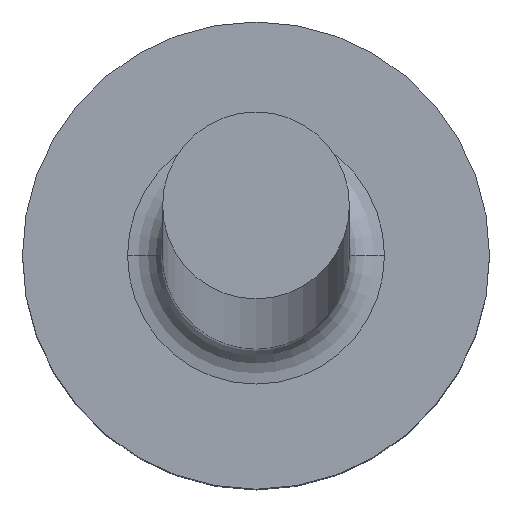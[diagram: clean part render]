
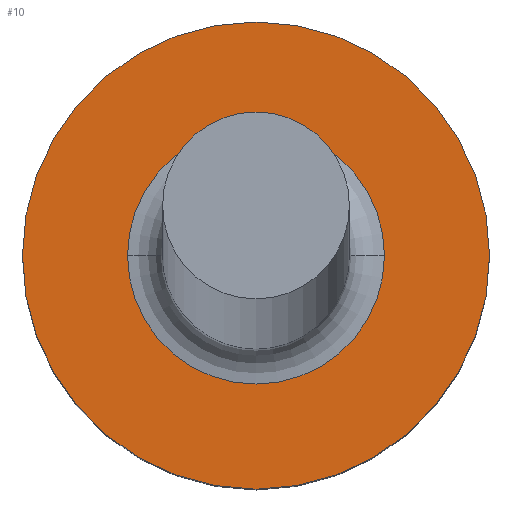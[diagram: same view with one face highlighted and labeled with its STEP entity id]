
A CAD part, top view. The second image highlights one B-rep face of the part: STEP entity #10.
In plain terms, the highlighted planar face has unit normal (0, 0, 1).
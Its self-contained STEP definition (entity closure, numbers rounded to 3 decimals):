
#1 = EDGE_CURVE ( 'NONE', #259, #54, #127, .T. ) ;
#10 = ADVANCED_FACE ( 'NONE', ( #230, #182 ), #187, .F. ) ;
#12 = ORIENTED_EDGE ( 'NONE', *, *, #1, .T. ) ;
#13 = CARTESIAN_POINT ( 'NONE',  ( 0., 0., 4. ) ) ;
#14 = DIRECTION ( 'NONE',  ( 0., 0., -1. ) ) ;
#18 = ORIENTED_EDGE ( 'NONE', *, *, #215, .T. ) ;
#24 = AXIS2_PLACEMENT_3D ( 'NONE', #45, #170, #212 ) ;
#45 = CARTESIAN_POINT ( 'NONE',  ( 0., 0., 4. ) ) ;
#46 = DIRECTION ( 'NONE',  ( 0., 0., -1. ) ) ;
#50 = DIRECTION ( 'NONE',  ( -1., 0., 0. ) ) ;
#54 = VERTEX_POINT ( 'NONE', #258 ) ;
#70 = CARTESIAN_POINT ( 'NONE',  ( -2., 0., 4. ) ) ;
#77 = DIRECTION ( 'NONE',  ( 0., 0., -1. ) ) ;
#95 = DIRECTION ( 'NONE',  ( -1., 0., 0. ) ) ;
#118 = EDGE_LOOP ( 'NONE', ( #167, #265 ) ) ;
#125 = AXIS2_PLACEMENT_3D ( 'NONE', #13, #14, #217 ) ;
#127 = CIRCLE ( 'NONE', #24, 1.1 ) ;
#135 = CIRCLE ( 'NONE', #125, 2. ) ;
#148 = DIRECTION ( 'NONE',  ( -1., 0., 0. ) ) ;
#153 = CARTESIAN_POINT ( 'NONE',  ( 2., 0., 4. ) ) ;
#161 = CIRCLE ( 'NONE', #243, 1.1 ) ;
#167 = ORIENTED_EDGE ( 'NONE', *, *, #189, .F. ) ;
#169 = AXIS2_PLACEMENT_3D ( 'NONE', #222, #77, #95 ) ;
#170 = DIRECTION ( 'NONE',  ( 0., 0., -1. ) ) ;
#174 = CIRCLE ( 'NONE', #169, 2. ) ;
#182 = FACE_OUTER_BOUND ( 'NONE', #118, .T. ) ;
#187 = PLANE ( 'NONE',  #254 ) ;
#189 = EDGE_CURVE ( 'NONE', #244, #229, #135, .T. ) ;
#197 = DIRECTION ( 'NONE',  ( 0., 0., -1. ) ) ;
#200 = CARTESIAN_POINT ( 'NONE',  ( 0., 0., 4. ) ) ;
#203 = CARTESIAN_POINT ( 'NONE',  ( -1.1, 0., 4. ) ) ;
#212 = DIRECTION ( 'NONE',  ( -1., 0., 0. ) ) ;
#215 = EDGE_CURVE ( 'NONE', #54, #259, #161, .T. ) ;
#217 = DIRECTION ( 'NONE',  ( -1., 0., 0. ) ) ;
#222 = CARTESIAN_POINT ( 'NONE',  ( 0., 0., 4. ) ) ;
#223 = EDGE_CURVE ( 'NONE', #229, #244, #174, .T. ) ;
#229 = VERTEX_POINT ( 'NONE', #153 ) ;
#230 = FACE_BOUND ( 'NONE', #272, .T. ) ;
#243 = AXIS2_PLACEMENT_3D ( 'NONE', #200, #197, #50 ) ;
#244 = VERTEX_POINT ( 'NONE', #70 ) ;
#254 = AXIS2_PLACEMENT_3D ( 'NONE', #256, #46, #148 ) ;
#256 = CARTESIAN_POINT ( 'NONE',  ( 2., 0., 4. ) ) ;
#258 = CARTESIAN_POINT ( 'NONE',  ( 1.1, 0., 4. ) ) ;
#259 = VERTEX_POINT ( 'NONE', #203 ) ;
#265 = ORIENTED_EDGE ( 'NONE', *, *, #223, .F. ) ;
#272 = EDGE_LOOP ( 'NONE', ( #12, #18 ) ) ;
